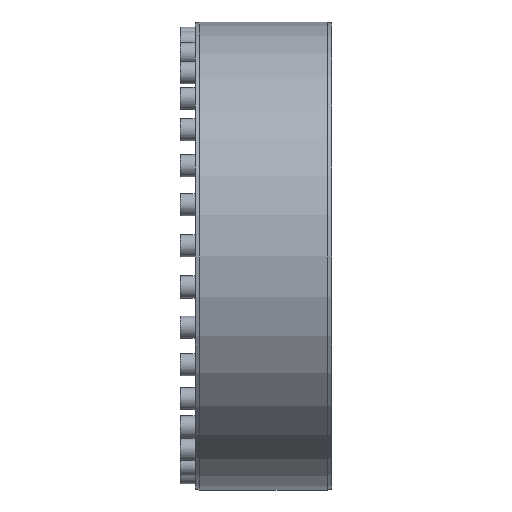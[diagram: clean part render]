
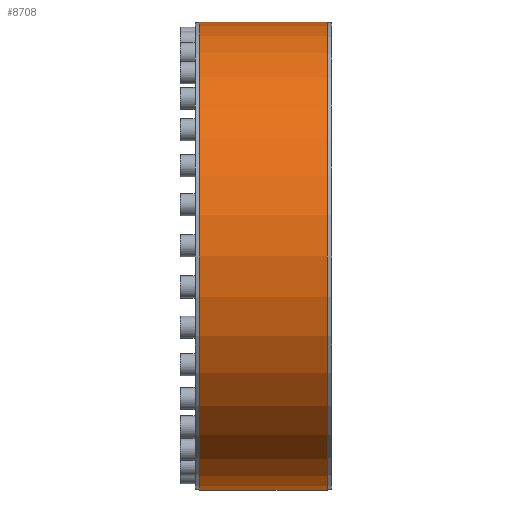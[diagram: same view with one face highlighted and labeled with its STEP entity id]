
A CAD part, left-side view. The second image highlights one B-rep face of the part: STEP entity #8708.
In plain terms, the highlighted cylindrical face has radius 347.5 mm (diameter 695 mm), a partial arc.
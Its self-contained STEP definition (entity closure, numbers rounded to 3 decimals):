
#574 = AXIS2_PLACEMENT_3D ( 'NONE', #3859, #9145, #5582 ) ;
#581 = VERTEX_POINT ( 'NONE', #3644 ) ;
#585 = AXIS2_PLACEMENT_3D ( 'NONE', #5159, #7810, #7850 ) ;
#1070 = VECTOR ( 'NONE', #7388, 1000. ) ;
#1768 = LINE ( 'NONE', #10124, #1070 ) ;
#2281 = DIRECTION ( 'NONE',  ( 0., 0., -1. ) ) ;
#2564 = ORIENTED_EDGE ( 'NONE', *, *, #8064, .F. ) ;
#2837 = EDGE_CURVE ( 'NONE', #6604, #581, #4600, .T. ) ;
#3582 = EDGE_CURVE ( 'NONE', #4570, #5755, #6275, .T. ) ;
#3644 = CARTESIAN_POINT ( 'NONE',  ( 0., 95., -347.5 ) ) ;
#3859 = CARTESIAN_POINT ( 'NONE',  ( 0., 0., 0. ) ) ;
#4570 = VERTEX_POINT ( 'NONE', #5567 ) ;
#4600 = CIRCLE ( 'NONE', #585, 347.5 ) ;
#4849 = LINE ( 'NONE', #11333, #8205 ) ;
#4999 = CYLINDRICAL_SURFACE ( 'NONE', #574, 347.5 ) ;
#5159 = CARTESIAN_POINT ( 'NONE',  ( 0., 95., 0. ) ) ;
#5567 = CARTESIAN_POINT ( 'NONE',  ( 0., -95., 347.5 ) ) ;
#5582 = DIRECTION ( 'NONE',  ( 0., 0., -1. ) ) ;
#5755 = VERTEX_POINT ( 'NONE', #9439 ) ;
#5970 = CARTESIAN_POINT ( 'NONE',  ( 0., -95., 0. ) ) ;
#6275 = CIRCLE ( 'NONE', #10573, 347.5 ) ;
#6536 = FACE_OUTER_BOUND ( 'NONE', #8299, .T. ) ;
#6604 = VERTEX_POINT ( 'NONE', #11319 ) ;
#7388 = DIRECTION ( 'NONE',  ( 0., -1., 0. ) ) ;
#7555 = ORIENTED_EDGE ( 'NONE', *, *, #2837, .T. ) ;
#7784 = EDGE_CURVE ( 'NONE', #581, #5755, #4849, .T. ) ;
#7810 = DIRECTION ( 'NONE',  ( 0., -1., 0. ) ) ;
#7850 = DIRECTION ( 'NONE',  ( 0., 0., -1. ) ) ;
#8064 = EDGE_CURVE ( 'NONE', #6604, #4570, #1768, .T. ) ;
#8205 = VECTOR ( 'NONE', #10505, 1000. ) ;
#8299 = EDGE_LOOP ( 'NONE', ( #2564, #7555, #9112, #9319 ) ) ;
#8708 = ADVANCED_FACE ( 'NONE', ( #6536 ), #4999, .T. ) ;
#9112 = ORIENTED_EDGE ( 'NONE', *, *, #7784, .T. ) ;
#9145 = DIRECTION ( 'NONE',  ( 0., -1., 0. ) ) ;
#9319 = ORIENTED_EDGE ( 'NONE', *, *, #3582, .F. ) ;
#9439 = CARTESIAN_POINT ( 'NONE',  ( 0., -95., -347.5 ) ) ;
#10124 = CARTESIAN_POINT ( 'NONE',  ( 0., 0., 347.5 ) ) ;
#10437 = DIRECTION ( 'NONE',  ( 0., -1., 0. ) ) ;
#10505 = DIRECTION ( 'NONE',  ( 0., -1., 0. ) ) ;
#10573 = AXIS2_PLACEMENT_3D ( 'NONE', #5970, #10437, #2281 ) ;
#11319 = CARTESIAN_POINT ( 'NONE',  ( 0., 95., 347.5 ) ) ;
#11333 = CARTESIAN_POINT ( 'NONE',  ( 0., 0., -347.5 ) ) ;
